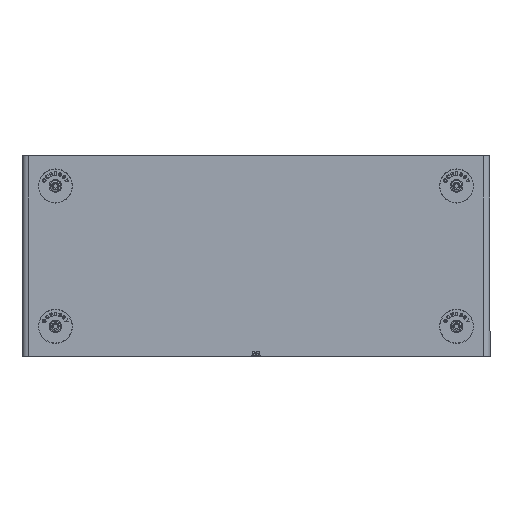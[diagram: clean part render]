
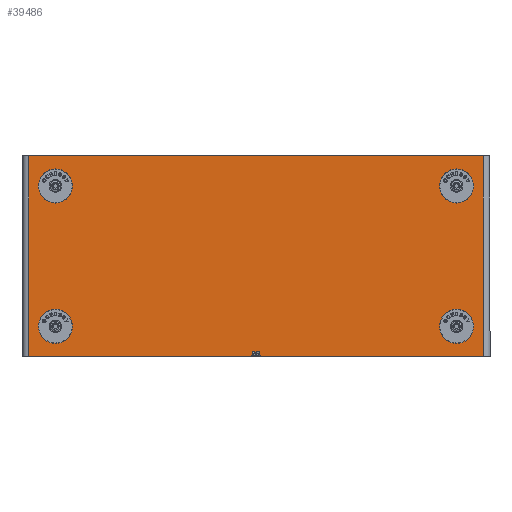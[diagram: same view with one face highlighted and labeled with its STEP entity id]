
A CAD part, front view. The second image highlights one B-rep face of the part: STEP entity #39486.
In plain terms, the highlighted planar face has unit normal (0, -1, 0) as drawn and (-0.437, -0.242, 0.866) by its records, which use the part's own axes.
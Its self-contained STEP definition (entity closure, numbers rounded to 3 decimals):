
#1781=FACE_BOUND('',#7291,.T.);
#1782=FACE_BOUND('',#7292,.T.);
#1783=FACE_BOUND('',#7293,.T.);
#1784=FACE_BOUND('',#7294,.T.);
#2666=PLANE('',#42058);
#4922=FACE_OUTER_BOUND('',#7290,.T.);
#7290=EDGE_LOOP('',(#36054,#36055,#36056,#36057,#36058,#36059,#36060,#36061));
#7291=EDGE_LOOP('',(#36062));
#7292=EDGE_LOOP('',(#36063));
#7293=EDGE_LOOP('',(#36064));
#7294=EDGE_LOOP('',(#36065));
#8060=CIRCLE('',#42027,25.5);
#8062=CIRCLE('',#42030,25.5);
#8064=CIRCLE('',#42033,25.5);
#8066=CIRCLE('',#42036,25.5);
#12426=LINE('',#115120,#15658);
#12428=LINE('',#115125,#15660);
#12429=LINE('',#115127,#15661);
#12430=LINE('',#115129,#15662);
#12431=LINE('',#115131,#15663);
#12432=LINE('',#115132,#15664);
#12433=LINE('',#115134,#15665);
#12434=LINE('',#115135,#15666);
#15658=VECTOR('',#49934,1000.);
#15660=VECTOR('',#49938,1000.);
#15661=VECTOR('',#49939,1000.);
#15662=VECTOR('',#49940,1000.);
#15663=VECTOR('',#49941,1000.);
#15664=VECTOR('',#49942,1000.);
#15665=VECTOR('',#49943,1000.);
#15666=VECTOR('',#49944,1000.);
#19445=VERTEX_POINT('',#115038);
#19447=VERTEX_POINT('',#115044);
#19449=VERTEX_POINT('',#115050);
#19451=VERTEX_POINT('',#115056);
#19469=VERTEX_POINT('',#115117);
#19470=VERTEX_POINT('',#115119);
#19471=VERTEX_POINT('',#115123);
#19472=VERTEX_POINT('',#115124);
#19473=VERTEX_POINT('',#115126);
#19474=VERTEX_POINT('',#115128);
#19475=VERTEX_POINT('',#115130);
#19476=VERTEX_POINT('',#115133);
#25059=EDGE_CURVE('',#19445,#19445,#8060,.T.);
#25062=EDGE_CURVE('',#19447,#19447,#8062,.T.);
#25065=EDGE_CURVE('',#19449,#19449,#8064,.T.);
#25068=EDGE_CURVE('',#19451,#19451,#8066,.T.);
#25098=EDGE_CURVE('',#19470,#19469,#12426,.T.);
#25100=EDGE_CURVE('',#19471,#19472,#12428,.T.);
#25101=EDGE_CURVE('',#19472,#19473,#12429,.T.);
#25102=EDGE_CURVE('',#19474,#19473,#12430,.T.);
#25103=EDGE_CURVE('',#19474,#19475,#12431,.T.);
#25104=EDGE_CURVE('',#19475,#19470,#12432,.T.);
#25105=EDGE_CURVE('',#19476,#19469,#12433,.T.);
#25106=EDGE_CURVE('',#19471,#19476,#12434,.T.);
#36054=ORIENTED_EDGE('',*,*,#25100,.T.);
#36055=ORIENTED_EDGE('',*,*,#25101,.T.);
#36056=ORIENTED_EDGE('',*,*,#25102,.F.);
#36057=ORIENTED_EDGE('',*,*,#25103,.T.);
#36058=ORIENTED_EDGE('',*,*,#25104,.T.);
#36059=ORIENTED_EDGE('',*,*,#25098,.T.);
#36060=ORIENTED_EDGE('',*,*,#25105,.F.);
#36061=ORIENTED_EDGE('',*,*,#25106,.F.);
#36062=ORIENTED_EDGE('',*,*,#25068,.F.);
#36063=ORIENTED_EDGE('',*,*,#25065,.F.);
#36064=ORIENTED_EDGE('',*,*,#25062,.F.);
#36065=ORIENTED_EDGE('',*,*,#25059,.F.);
#39486=ADVANCED_FACE('',(#4922,#1781,#1782,#1783,#1784),#2666,.F.);
#42027=AXIS2_PLACEMENT_3D('',#115040,#49848,#49849);
#42030=AXIS2_PLACEMENT_3D('',#115046,#49855,#49856);
#42033=AXIS2_PLACEMENT_3D('',#115052,#49862,#49863);
#42036=AXIS2_PLACEMENT_3D('',#115058,#49869,#49870);
#42058=AXIS2_PLACEMENT_3D('',#115122,#49936,#49937);
#49848=DIRECTION('center_axis',(-0.437,-0.242,0.866));
#49849=DIRECTION('ref_axis',(-0.117,-0.94,-0.321));
#49855=DIRECTION('center_axis',(-0.437,-0.242,0.866));
#49856=DIRECTION('ref_axis',(-0.117,-0.94,-0.321));
#49862=DIRECTION('center_axis',(-0.437,-0.242,0.866));
#49863=DIRECTION('ref_axis',(-0.117,-0.94,-0.321));
#49869=DIRECTION('center_axis',(-0.437,-0.242,0.866));
#49870=DIRECTION('ref_axis',(-0.117,-0.94,-0.321));
#49934=DIRECTION('',(0.344,0.845,0.409));
#49936=DIRECTION('center_axis',(0.437,0.242,-0.866));
#49937=DIRECTION('ref_axis',(0.117,0.94,0.321));
#49938=DIRECTION('',(0.892,-0.242,0.383));
#49939=DIRECTION('',(0.117,0.94,0.321));
#49940=DIRECTION('',(0.892,-0.242,0.383));
#49941=DIRECTION('',(-0.117,-0.94,-0.321));
#49942=DIRECTION('',(0.892,-0.242,0.383));
#49943=DIRECTION('',(-0.892,0.242,-0.383));
#49944=DIRECTION('',(-0.118,0.97,0.211));
#115038=CARTESIAN_POINT('',(-434.536,209.801,416.123));
#115040=CARTESIAN_POINT('Origin',(-437.519,185.839,407.928));
#115044=CARTESIAN_POINT('',(75.932,-132.641,578.158));
#115046=CARTESIAN_POINT('Origin',(72.949,-156.603,569.963));
#115050=CARTESIAN_POINT('',(100.497,64.694,645.651));
#115052=CARTESIAN_POINT('Origin',(97.515,40.732,637.455));
#115056=CARTESIAN_POINT('',(-459.102,12.466,348.63));
#115058=CARTESIAN_POINT('Origin',(-462.084,-11.496,340.435));
#115117=CARTESIAN_POINT('',(-203.471,-118.549,441.073));
#115119=CARTESIAN_POINT('',(-205.963,-124.673,438.106));
#115120=CARTESIAN_POINT('',(-203.471,-118.549,441.073));
#115122=CARTESIAN_POINT('Origin',(-182.285,14.618,488.945));
#115123=CARTESIAN_POINT('',(-193.7,-127.999,443.366));
#115124=CARTESIAN_POINT('',(103.354,-208.563,570.802));
#115125=CARTESIAN_POINT('',(-511.935,-41.69,306.845));
#115126=CARTESIAN_POINT('',(138.447,73.345,667.22));
#115127=CARTESIAN_POINT('',(120.901,-67.609,619.011));
#115128=CARTESIAN_POINT('',(-467.924,237.799,407.089));
#115129=CARTESIAN_POINT('',(-164.738,155.572,537.154));
#115130=CARTESIAN_POINT('',(-503.017,-44.109,310.67));
#115131=CARTESIAN_POINT('',(-485.471,96.845,358.879));
#115132=CARTESIAN_POINT('',(-511.935,-41.69,306.845));
#115133=CARTESIAN_POINT('',(-194.554,-120.967,444.899));
#115134=CARTESIAN_POINT('',(-199.013,-119.758,442.986));
#115135=CARTESIAN_POINT('',(-193.7,-127.999,443.366));
